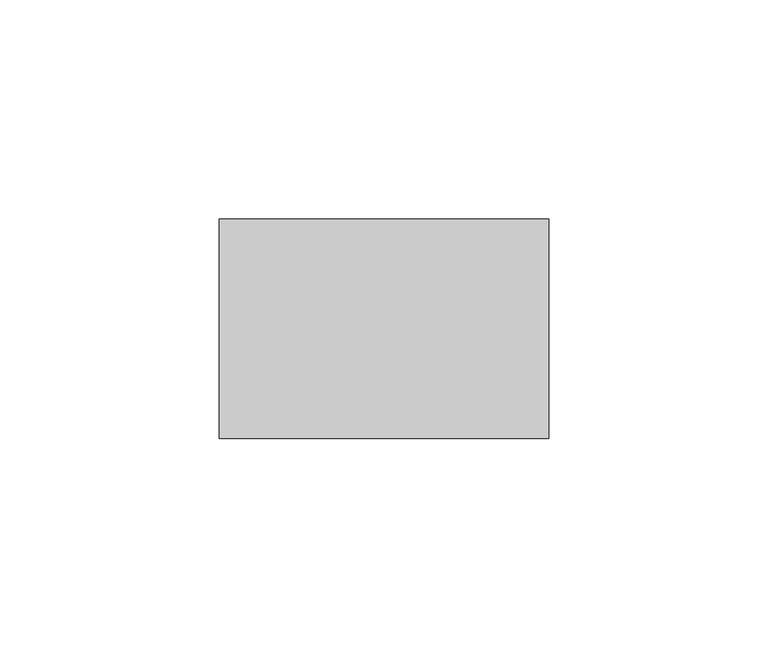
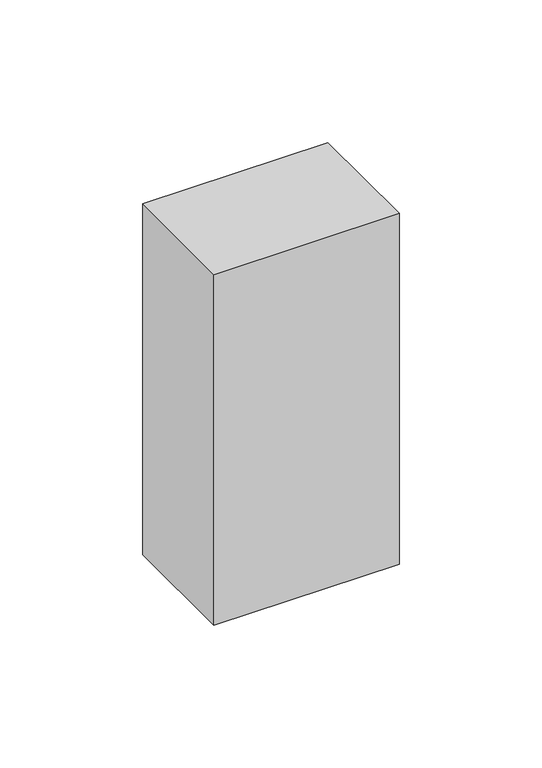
"""IFC4 building model written with IfcOpenShell, lengths in millimetres: proxy geometry, Schliessanlage : Schliessanlage."""

from ifc_helpers import new_model, si_unit, frame, origin, place, context, project, spatial, polyline, outline, extrude, source, transform, mapped, element, save


def electrical_fixtures_cd0d24b8(model_context):
    return source(origin(), model_context, "Body", "SweptSolid", [
        extrude(outline(polyline([(75.0, 0.0), (0.0, 0.0), (0.0, 50.0), (75.0, 50.0), (75.0, 0.0)])), frame((0.0, 0.0, 975.0), z_axis=(0.0, 0.0, 1.0), x_axis=(1.0, 0.0, 0.0)), (0.0, 0.0, 1.0), 150.0),
    ])


if __name__ == "__main__":
    model = new_model("IFC4")
    model_context = context("Model", 3, world=origin())
    ifc_project = project(units=[si_unit("LENGTHUNIT", "METRE", prefix="MILLI")], contexts=[model_context])
    site = spatial("IfcSite", under=ifc_project)
    building = spatial("IfcBuilding", under=site)
    placement = place(None, origin())
    electrical_fixtures_shape = electrical_fixtures_cd0d24b8(model_context)
    element("IfcBuildingElementProxy", 1, Name="Schliessanlage : Schliessanlage", ObjectType="Schliessanlage : Schliessanlage", at=placement, inside=building, context=model_context, shape_type="MappedRepresentation", body=[
        mapped(electrical_fixtures_shape, transform((0.0, 0.0, 0.0), x_axis=(1.0, 0.0, 0.0), y_axis=(0.0, 1.0, 0.0), z_axis=(0.0, 0.0, 1.0))),
    ])
    save(model, "model.ifc")
